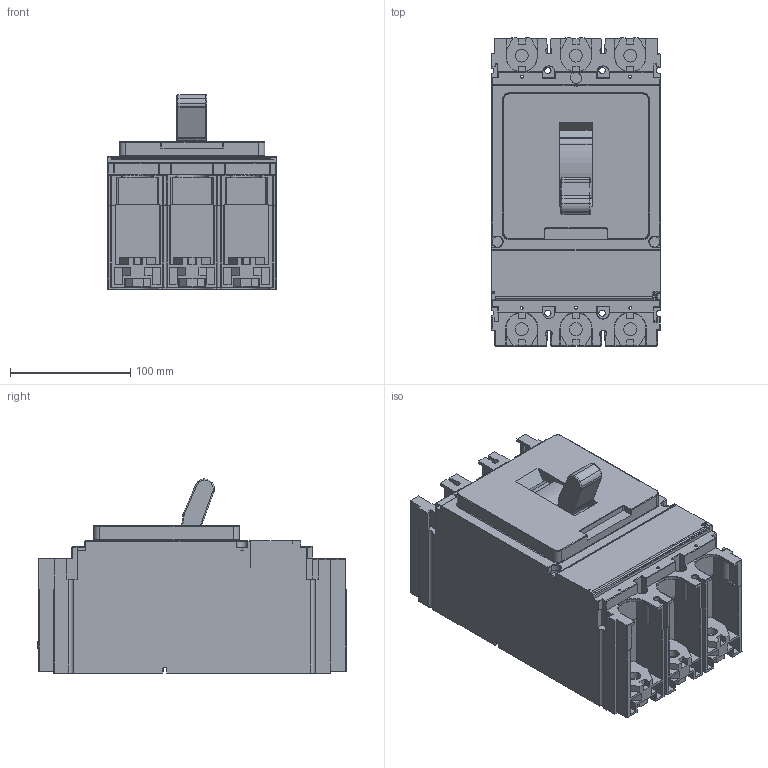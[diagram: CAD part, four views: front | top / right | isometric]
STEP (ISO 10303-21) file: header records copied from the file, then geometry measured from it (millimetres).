
FILE_DESCRIPTION((''),'2;1');
FILE_NAME('ASM0002_ASM','2020-12-15T12:19:20',('USER'),('Schneider-Electric'),'CREO PARAMETRIC BY PTC INC, 2018300','CREO PARAMETRIC BY PTC INC, 2018300','');
FILE_SCHEMA(('CONFIG_CONTROL_DESIGN'));
Length unit declared in the file: millimetre
Products named in the file (3): C63W35E630_3D-SIMPLIFIED_ASM__1; ASM0002_ASM_1_1_ASM; ASM0002_ASM
Assembly tree (2 placements, depth 3):
  ASM0002_ASM
    ASM0002_ASM_1_1_ASM
      C63W35E630_3D-SIMPLIFIED_ASM__1
Bounding box: 139.71 x 255.7 x 161.2 mm (x, y, z)
Volume: 3389757.3 mm3; surface area: 264287.5 mm2
Topology: 1 solids, 6 shells, 1441 faces, 4058 edges, 2641 vertices
Faces by surface type: plane 1003, cylinder 346, torus 54, sphere 24, bspline 12, extrusion 2
Entity records: 47171 total; most frequent: CARTESIAN_POINT 9423, ORIENTED_EDGE 8088, DIRECTION 7621, EDGE_CURVE 4049, VECTOR 3115, LINE 3113, VERTEX_POINT 2641, AXIS2_PLACEMENT_3D 2253
